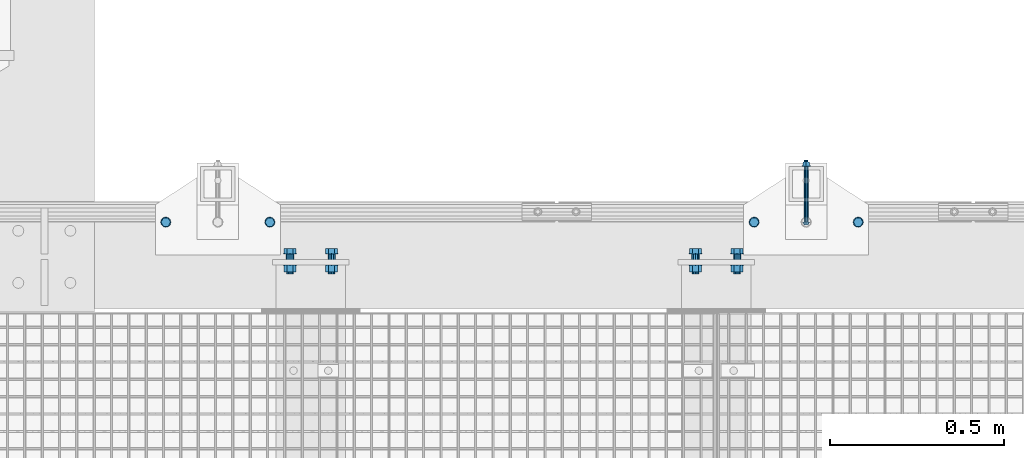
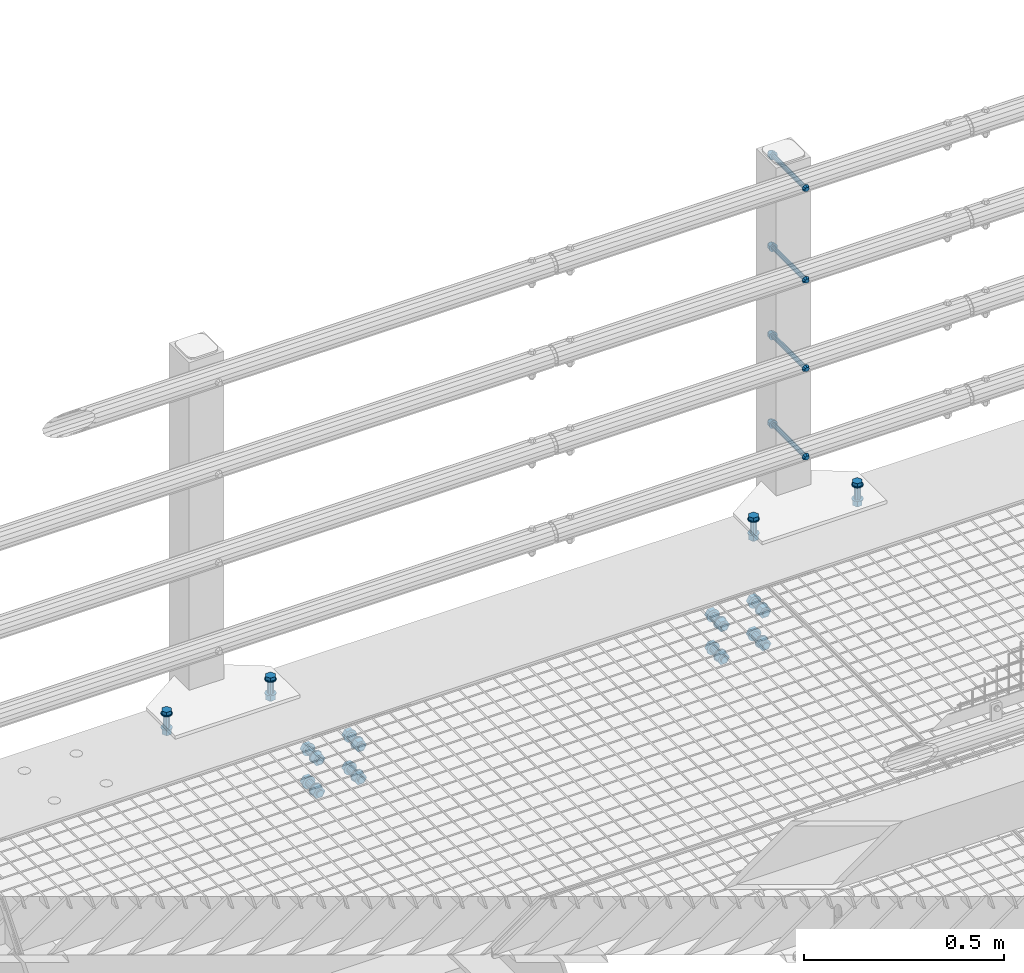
# One storey, part 48 of 1530: 8 mechanical fasteners.
"""IFC2X3 building model written with IfcOpenShell, lengths in millimetres."""

from ifc_helpers import new_model, si_unit, frame, origin_with_axes, place, context, subcontext, project, spatial, faceted_brep, source, transform, mapped, material, type_object, element, save


model = new_model("IFC2X3")

# Units and contexts
model_context = context("Model", 3, precision=1e-05, world=origin_with_axes())
body_context = subcontext(model_context, "Body", "Model", "MODEL_VIEW")
ifc_project = project(units=[si_unit("LENGTHUNIT", "METRE", prefix="MILLI"), si_unit("AREAUNIT", "SQUARE_METRE"), si_unit("VOLUMEUNIT", "CUBIC_METRE"), si_unit("MASSUNIT", "GRAM", prefix="KILO"), si_unit("TIMEUNIT", "SECOND"), si_unit("PLANEANGLEUNIT", "RADIAN"), si_unit("SOLIDANGLEUNIT", "STERADIAN"), si_unit("THERMODYNAMICTEMPERATUREUNIT", "DEGREE_CELSIUS"), si_unit("LUMINOUSINTENSITYUNIT", "LUMEN")], contexts=[model_context])

# Site, building, storey
site_placement = place(None, origin_with_axes())
site = spatial("IfcSite", under=ifc_project, at=site_placement, Name="Brattvåg", CompositionType="ELEMENT")
building_placement = place(site_placement, origin_with_axes())
building = spatial("IfcBuilding", under=site, at=building_placement, Name="Undefined", CompositionType="ELEMENT")
storey_placement = place(building_placement, origin_with_axes())
storey = spatial("IfcBuildingStorey", under=building, at=storey_placement, Name="Undefined", CompositionType="ELEMENT", Elevation=0.0)

# Mechanical fasteners
ifc_material = material(Name="8")
mechanical_fastener_type = type_object("IfcMechanicalFastenerType", Name="Bolt assembly")
shared_shape_1 = source(origin_with_axes(), body_context, "Body", "Brep", [
    faceted_brep([(6.49435320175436, -7.49984019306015, 0.0), (4.59220118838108, -7.49984019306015, 4.59220118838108), (3.97664443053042e-16, -7.49984019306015, 6.49435320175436), (-4.59220118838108, -7.49984019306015, 4.59220118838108), (-6.49435320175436, -7.49984019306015, 7.95328886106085e-16), (-4.59220118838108, -7.49984019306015, -4.59220118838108), (-1.19299332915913e-15, -7.49984019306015, -6.49435320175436), (4.59220118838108, -7.49984019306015, -4.59220118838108), (7.34846922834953, 0.000159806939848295, -7.34846922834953), (-1.90903542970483e-15, 0.000159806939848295, -10.3923048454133), (-7.34846922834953, 0.000159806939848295, -7.34846922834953), (-10.3923048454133, 0.000159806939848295, 1.27269028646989e-15), (-7.34846922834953, 0.000159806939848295, 7.34846922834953), (6.36345143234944e-16, 0.000159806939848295, 10.3923048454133), (7.34846922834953, 0.000159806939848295, 7.34846922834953), (10.3923048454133, 0.000159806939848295, 0.0), (6.0, 0.000159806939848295, 0.0), (5.19615242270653, 0.000159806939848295, 3.00000000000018), (2.99999999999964, 0.000159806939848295, 5.19615242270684), (-6.21801588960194e-13, 0.000159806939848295, 6.0), (-3.00000000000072, 0.000159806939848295, 5.19615242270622), (-5.19615242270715, 0.000159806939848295, 2.9999999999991), (-6.0, 0.000159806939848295, -1.24360317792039e-12), (-5.19615242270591, 0.000159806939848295, -3.00000000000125), (-2.99999999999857, 0.000159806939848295, -5.19615242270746), (1.85874342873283e-12, 0.000159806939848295, -6.0), (3.00000000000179, 0.000159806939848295, -5.1961524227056), (5.19615242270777, 0.000159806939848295, -2.99999999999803), (5.19615242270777, 180.00015980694, -2.99999999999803), (3.00000000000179, 180.00015980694, -5.1961524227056), (1.85874342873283e-12, 180.00015980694, -6.0), (-2.99999999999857, 180.00015980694, -5.19615242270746), (-5.19615242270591, 180.00015980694, -3.00000000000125), (-6.0, 180.00015980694, -1.24360317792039e-12), (-5.19615242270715, 180.00015980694, 2.9999999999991), (-3.00000000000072, 180.00015980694, 5.19615242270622), (-6.21801588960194e-13, 180.00015980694, 6.0), (2.99999999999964, 180.00015980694, 5.19615242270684), (5.19615242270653, 180.00015980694, 3.00000000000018), (6.0, 180.00015980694, 0.0), (12.0, 160.299998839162, 0.0), (10.3923048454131, 160.299998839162, 6.00000000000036), (5.99999999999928, 160.299998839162, 10.3923048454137), (-1.24360317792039e-12, 160.299998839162, 12.0), (-6.00000000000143, 160.299998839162, 10.3923048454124), (-10.3923048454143, 160.299998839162, 5.99999999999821), (-12.0, 160.299998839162, -2.48720635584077e-12), (-10.3923048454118, 160.299998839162, -6.00000000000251), (-5.99999999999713, 160.299998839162, -10.3923048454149), (3.71748685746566e-12, 160.299998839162, -12.0), (6.00000000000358, 160.299998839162, -10.3923048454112), (10.3923048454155, 160.299998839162, -5.99999999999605), (10.3923048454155, 162.799998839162, -5.99999999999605), (6.00000000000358, 162.799998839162, -10.3923048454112), (3.71748685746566e-12, 162.799998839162, -12.0), (-5.99999999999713, 162.799998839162, -10.3923048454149), (-10.3923048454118, 162.799998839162, -6.00000000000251), (-12.0, 162.799998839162, -2.48720635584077e-12), (-10.3923048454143, 162.799998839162, 5.99999999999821), (-6.00000000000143, 162.799998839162, 10.3923048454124), (-1.24360317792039e-12, 162.799998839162, 12.0), (5.99999999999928, 162.799998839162, 10.3923048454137), (10.3923048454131, 162.799998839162, 6.00000000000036), (12.0, 162.799998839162, 0.0), (10.9696551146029, 162.799998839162, 0.0), (5.48482755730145, 162.799998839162, 9.5), (-5.48482755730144, 162.799998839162, 9.5), (-10.9696551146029, 162.799998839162, 1.34339530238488e-15), (-5.48482755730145, 162.799998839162, -9.5), (5.48482755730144, 162.799998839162, -9.5), (5.48482755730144, 173.599999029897, -9.5), (-5.48482755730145, 173.599999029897, -9.5), (-10.9696551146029, 173.599999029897, 1.34339530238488e-15), (-5.48482755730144, 173.599999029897, 9.5), (5.48482755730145, 173.599999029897, 9.5), (10.9696551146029, 173.599999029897, 0.0)], [[[0, 1, 2, 3, 4, 5, 6, 7]], [[8, 9, 10, 11, 12, 13, 14, 15]], [[0, 15, 14, 1]], [[1, 14, 13, 2]], [[2, 13, 12, 3]], [[3, 12, 11, 4]], [[4, 11, 10, 5]], [[5, 10, 9, 6]], [[6, 9, 8, 7]], [[7, 8, 15, 0]], [[16, 17, 18, 19, 20, 21, 22, 23, 24, 25, 26, 27]], [[28, 29, 30, 31, 32, 33, 34, 35, 36, 37, 38, 39]], [[16, 39, 38, 17]], [[17, 38, 37, 18]], [[18, 37, 36, 19]], [[19, 36, 35, 20]], [[20, 35, 34, 21]], [[21, 34, 33, 22]], [[22, 33, 32, 23]], [[23, 32, 31, 24]], [[24, 31, 30, 25]], [[25, 30, 29, 26]], [[26, 29, 28, 27]], [[27, 28, 39, 16]], [[40, 41, 42, 43, 44, 45, 46, 47, 48, 49, 50, 51]], [[52, 53, 54, 55, 56, 57, 58, 59, 60, 61, 62, 63]], [[40, 63, 62, 41]], [[41, 62, 61, 42]], [[42, 61, 60, 43]], [[43, 60, 59, 44]], [[44, 59, 58, 45]], [[45, 58, 57, 46]], [[46, 57, 56, 47]], [[47, 56, 55, 48]], [[48, 55, 54, 49]], [[49, 54, 53, 50]], [[50, 53, 52, 51]], [[51, 52, 63, 40]], [[64, 65, 66, 67, 68, 69]], [[70, 71, 72, 73, 74, 75]], [[64, 75, 74, 65]], [[65, 74, 73, 66]], [[66, 73, 72, 67]], [[67, 72, 71, 68]], [[68, 71, 70, 69]], [[69, 70, 75, 64]]]),
    faceted_brep([(6.5, 0.100159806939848, 0.0), (5.62916512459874, 0.100159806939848, 3.25000000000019), (3.24999999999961, 0.100159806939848, 5.62916512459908), (-6.7361838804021e-13, 0.100159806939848, 6.5), (-3.25000000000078, 0.100159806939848, 5.6291651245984), (-5.62916512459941, 0.100159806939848, 3.24999999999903), (-6.5, 0.100159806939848, -1.34723677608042e-12), (-5.62916512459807, 0.100159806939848, -3.25000000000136), (-3.24999999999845, 0.100159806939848, -5.62916512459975), (2.01363871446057e-12, 0.100159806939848, -6.5), (3.25000000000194, 0.100159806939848, -5.62916512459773), (5.62916512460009, 0.100159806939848, -3.24999999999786), (5.62916512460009, 60.4001552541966, -3.24999999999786), (3.25000000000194, 60.4001552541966, -5.62916512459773), (2.01363871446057e-12, 60.4001552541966, -6.5), (-3.24999999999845, 60.4001552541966, -5.62916512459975), (-5.62916512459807, 60.4001552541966, -3.25000000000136), (-6.5, 60.4001552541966, -1.34723677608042e-12), (-5.62916512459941, 60.4001552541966, 3.24999999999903), (-3.25000000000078, 60.4001552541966, 5.6291651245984), (-6.7361838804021e-13, 60.4001552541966, 6.5), (3.24999999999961, 60.4001552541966, 5.62916512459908), (5.62916512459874, 60.4001552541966, 3.25000000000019), (6.5, 60.4001552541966, 0.0), (6.5, 60.1999988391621, 0.0), (5.62916512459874, 60.1999988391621, 3.25000000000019), (3.24999999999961, 60.1999988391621, 5.62916512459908), (-6.7361838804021e-13, 60.1999988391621, 6.5), (-3.25000000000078, 60.1999988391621, 5.6291651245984), (-5.62916512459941, 60.1999988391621, 3.24999999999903), (-6.5, 60.1999988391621, -1.34723677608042e-12), (-5.62916512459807, 60.1999988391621, -3.25000000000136), (-3.24999999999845, 60.1999988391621, -5.62916512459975), (2.01363871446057e-12, 60.1999988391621, -6.5), (3.25000000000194, 60.1999988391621, -5.62916512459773), (5.62916512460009, 60.1999988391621, -3.24999999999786), (5.62916512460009, 160.299998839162, -3.24999999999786), (3.25000000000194, 160.299998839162, -5.62916512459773), (2.01363871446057e-12, 160.299998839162, -6.5), (-3.24999999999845, 160.299998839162, -5.62916512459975), (-5.62916512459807, 160.299998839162, -3.25000000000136), (-6.5, 160.299998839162, -1.34723677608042e-12), (-5.62916512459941, 160.299998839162, 3.24999999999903), (-3.25000000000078, 160.299998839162, 5.6291651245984), (-6.7361838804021e-13, 160.299998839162, 6.5), (3.24999999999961, 160.299998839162, 5.62916512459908), (5.62916512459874, 160.299998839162, 3.25000000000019), (6.5, 160.299998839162, 0.0)], [[[0, 1, 2, 3, 4, 5, 6, 7, 8, 9, 10, 11]], [[12, 13, 14, 15, 16, 17, 18, 19, 20, 21, 22, 23]], [[0, 23, 22, 1]], [[1, 22, 21, 2]], [[2, 21, 20, 3]], [[3, 20, 19, 4]], [[4, 19, 18, 5]], [[5, 18, 17, 6]], [[6, 17, 16, 7]], [[7, 16, 15, 8]], [[8, 15, 14, 9]], [[9, 14, 13, 10]], [[10, 13, 12, 11]], [[11, 12, 23, 0]], [[24, 25, 26, 27, 28, 29, 30, 31, 32, 33, 34, 35]], [[36, 37, 38, 39, 40, 41, 42, 43, 44, 45, 46, 47]], [[24, 47, 46, 25]], [[25, 46, 45, 26]], [[26, 45, 44, 27]], [[27, 44, 43, 28]], [[28, 43, 42, 29]], [[29, 42, 41, 30]], [[30, 41, 40, 31]], [[31, 40, 39, 32]], [[32, 39, 38, 33]], [[33, 38, 37, 34]], [[34, 37, 36, 35]], [[35, 36, 47, 24]]]),
])
for number, where, z_axis, x_axis, name in (
    (1, (14844.9999999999, 9099.69972268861, 149.550000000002), (1.0, 0.0, 0.0), (0.0, 0.0, -1.0), "Bolt assembly"),
    (2, (14844.9999999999, 9099.69972268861, 419.550000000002), (1.0, 0.0, 0.0), (0.0, 0.0, -1.0), "Bolt assembly"),
    (3, (14844.9999999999, 9099.69972268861, 689.550000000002), (1.0, 0.0, 0.0), (0.0, 0.0, -1.0), "Bolt assembly"),
    (4, (14844.9999999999, 9099.69972268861, 969.550000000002), (1.0, 0.0, 0.0), (0.0, 0.0, -1.0), "Bolt assembly"),
):
    element("IfcMechanicalFastener", number, at=place(storey_placement, frame(where, z_axis=z_axis, x_axis=x_axis)), inside=storey, type_object=mechanical_fastener_type, material=ifc_material, Name=name, NominalDiameter=12.0, NominalLength=180.0, context=body_context, shape_type="MappedRepresentation", body=[
        mapped(shared_shape_1, transform((0.0, 0.0, 0.0))),
    ])
shared_shape_2 = source(origin_with_axes(), body_context, "Body", "Brep", [
    faceted_brep([(13.856406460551, -13.0, 0.0), (6.92820323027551, -13.0, 12.0), (-6.92820323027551, -13.0, 12.0), (-13.856406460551, -13.0, 1.69692038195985e-15), (-6.92820323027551, -13.0, -12.0), (6.9282032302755, -13.0, -12.0), (6.9282032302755, -3.0, -12.0), (-6.92820323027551, -3.0, -12.0), (-13.856406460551, -3.0, 1.69692038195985e-15), (-6.92820323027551, -3.0, 12.0), (6.92820323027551, -3.0, 12.0), (13.856406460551, -3.0, 0.0), (8.0, -3.0, 0.0), (6.92820323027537, -3.0, 4.00000000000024), (3.99999999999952, -3.0, 6.92820323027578), (-8.29068785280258e-13, -3.0, 8.0), (-4.00000000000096, -3.0, 6.92820323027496), (-6.9282032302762, -3.0, 3.99999999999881), (-8.0, -3.0, -1.65813757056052e-12), (-6.92820323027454, -3.0, -4.00000000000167), (-3.99999999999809, -3.0, -6.92820323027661), (2.47832457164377e-12, -3.0, -8.0), (4.00000000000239, -3.0, -6.92820323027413), (6.92820323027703, -3.0, -3.99999999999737), (6.92820323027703, 62.0000000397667, -3.99999999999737), (4.00000000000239, 62.0000000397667, -6.92820323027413), (2.47832457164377e-12, 62.0000000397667, -8.0), (-3.99999999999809, 62.0000000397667, -6.92820323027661), (-6.92820323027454, 62.0000000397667, -4.00000000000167), (-8.0, 62.0000000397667, -1.65813757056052e-12), (-6.9282032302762, 62.0000000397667, 3.99999999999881), (-4.00000000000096, 62.0000000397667, 6.92820323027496), (-8.29068785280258e-13, 62.0000000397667, 8.0), (3.99999999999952, 62.0000000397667, 6.92820323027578), (6.92820323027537, 62.0000000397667, 4.00000000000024), (8.0, 62.0000000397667, 0.0), (15.0, -3.0, 0.0), (12.9903810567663, -3.0, 7.50000000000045), (7.4999999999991, -3.0, 12.9903810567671), (-1.55450397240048e-12, -3.0, 15.0), (-7.50000000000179, -3.0, 12.9903810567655), (-12.9903810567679, -3.0, 7.49999999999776), (-15.0, -3.0, -3.10900794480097e-12), (-12.9903810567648, -3.0, -7.50000000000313), (-7.49999999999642, -3.0, -12.9903810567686), (4.64685857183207e-12, -3.0, -15.0), (7.50000000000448, -3.0, -12.990381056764), (12.9903810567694, -3.0, -7.49999999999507), (12.9903810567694, 0.0, -7.49999999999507), (7.50000000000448, 0.0, -12.990381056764), (0.0, 0.0, -15.0), (-7.49999999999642, 0.0, -12.9903810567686), (-12.9903810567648, 0.0, -7.50000000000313), (-15.0, 0.0, -3.10900794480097e-12), (-12.9903810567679, 0.0, 7.49999999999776), (-7.50000000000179, 0.0, 12.9903810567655), (0.0, 0.0, 15.0), (7.4999999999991, 0.0, 12.9903810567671), (12.9903810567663, 0.0, 7.50000000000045), (15.0, 0.0, 0.0), (15.0, 39.9997390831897, 0.0), (12.9903810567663, 39.9997390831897, 7.50000000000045), (7.4999999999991, 39.9997390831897, 12.9903810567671), (-1.55450397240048e-12, 39.9997390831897, 15.0), (-7.50000000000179, 39.9997390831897, 12.9903810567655), (-12.9903810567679, 39.9997390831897, 7.49999999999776), (-15.0, 39.9997390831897, -3.10900794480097e-12), (-12.9903810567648, 39.9997390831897, -7.50000000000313), (-7.49999999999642, 39.9997390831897, -12.9903810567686), (4.64685857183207e-12, 39.9997390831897, -15.0), (7.50000000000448, 39.9997390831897, -12.990381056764), (12.9903810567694, 39.9997390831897, -7.49999999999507), (12.9903810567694, 42.9997390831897, -7.49999999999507), (7.50000000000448, 42.9997390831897, -12.990381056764), (4.64685857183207e-12, 42.9997390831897, -15.0), (-7.49999999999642, 42.9997390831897, -12.9903810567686), (-12.9903810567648, 42.9997390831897, -7.50000000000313), (-15.0, 42.9997390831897, -3.10900794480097e-12), (-12.9903810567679, 42.9997390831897, 7.49999999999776), (-7.50000000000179, 42.9997390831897, 12.9903810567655), (-1.55450397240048e-12, 42.9997390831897, 15.0), (7.4999999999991, 42.9997390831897, 12.9903810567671), (12.9903810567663, 42.9997390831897, 7.50000000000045), (15.0, 42.9997390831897, 0.0), (13.856406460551, 42.9997390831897, 0.0), (6.92820323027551, 42.9997390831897, 12.0), (-6.92820323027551, 42.9997390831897, 12.0), (-13.856406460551, 42.9997390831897, 1.69692038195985e-15), (-6.92820323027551, 42.9997390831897, -12.0), (6.9282032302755, 42.9997390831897, -12.0), (6.9282032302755, 57.7997392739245, -12.0), (-6.92820323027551, 57.7997392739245, -12.0), (-13.856406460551, 57.7997392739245, 1.69692038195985e-15), (-6.92820323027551, 57.7997392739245, 12.0), (6.92820323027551, 57.7997392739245, 12.0), (13.856406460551, 57.7997392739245, 0.0)], [[[0, 1, 2, 3, 4, 5]], [[6, 7, 8, 9, 10, 11]], [[0, 11, 10, 1]], [[1, 10, 9, 2]], [[2, 9, 8, 3]], [[3, 8, 7, 4]], [[4, 7, 6, 5]], [[5, 6, 11, 0]], [[12, 13, 14, 15, 16, 17, 18, 19, 20, 21, 22, 23]], [[24, 25, 26, 27, 28, 29, 30, 31, 32, 33, 34, 35]], [[12, 35, 34, 13]], [[13, 34, 33, 14]], [[14, 33, 32, 15]], [[15, 32, 31, 16]], [[16, 31, 30, 17]], [[17, 30, 29, 18]], [[18, 29, 28, 19]], [[19, 28, 27, 20]], [[20, 27, 26, 21]], [[21, 26, 25, 22]], [[22, 25, 24, 23]], [[23, 24, 35, 12]], [[36, 37, 38, 39, 40, 41, 42, 43, 44, 45, 46, 47]], [[48, 49, 50, 51, 52, 53, 54, 55, 56, 57, 58, 59]], [[36, 59, 58, 37]], [[37, 58, 57, 38]], [[38, 57, 56, 39]], [[39, 56, 55, 40]], [[40, 55, 54, 41]], [[41, 54, 53, 42]], [[42, 53, 52, 43]], [[43, 52, 51, 44]], [[44, 51, 50, 45]], [[45, 50, 49, 46]], [[46, 49, 48, 47]], [[47, 48, 59, 36]], [[60, 61, 62, 63, 64, 65, 66, 67, 68, 69, 70, 71]], [[72, 73, 74, 75, 76, 77, 78, 79, 80, 81, 82, 83]], [[60, 83, 82, 61]], [[61, 82, 81, 62]], [[62, 81, 80, 63]], [[63, 80, 79, 64]], [[64, 79, 78, 65]], [[65, 78, 77, 66]], [[66, 77, 76, 67]], [[67, 76, 75, 68]], [[68, 75, 74, 69]], [[69, 74, 73, 70]], [[70, 73, 72, 71]], [[71, 72, 83, 60]], [[84, 85, 86, 87, 88, 89]], [[90, 91, 92, 93, 94, 95]], [[84, 95, 94, 85]], [[85, 94, 93, 86]], [[86, 93, 92, 87]], [[87, 92, 91, 88]], [[88, 91, 90, 89]], [[89, 90, 95, 84]]]),
    faceted_brep([(9.0, 0.1, 0.0), (7.79422863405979, 0.1, 4.50000000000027), (4.49999999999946, 0.1, 7.79422863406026), (-9.3270238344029e-13, 0.1, 9.0), (-4.50000000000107, 0.1, 7.79422863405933), (-7.79422863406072, 0.1, 4.49999999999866), (-9.0, 0.1, -1.86540476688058e-12), (-7.79422863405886, 0.1, -4.50000000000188), (-4.49999999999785, 0.1, -7.79422863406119), (2.78811514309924e-12, 0.1, -9.0), (4.50000000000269, 0.1, -7.7942286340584), (7.79422863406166, 0.1, -4.49999999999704), (7.79422863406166, 10.1, -4.49999999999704), (4.50000000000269, 10.1, -7.7942286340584), (2.78811514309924e-12, 10.1, -9.0), (-4.49999999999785, 10.1, -7.79422863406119), (-7.79422863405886, 10.1, -4.50000000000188), (-9.0, 10.1, -1.86540476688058e-12), (-7.79422863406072, 10.1, 4.49999999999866), (-4.50000000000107, 10.1, 7.79422863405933), (-9.3270238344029e-13, 10.1, 9.0), (4.49999999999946, 10.1, 7.79422863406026), (7.79422863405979, 10.1, 4.50000000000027), (9.0, 10.1, 0.0), (9.0, 9.8997390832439, 0.0), (7.79422863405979, 9.8997390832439, 4.50000000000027), (4.49999999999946, 9.8997390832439, 7.79422863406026), (-9.3270238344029e-13, 9.8997390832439, 9.0), (-4.50000000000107, 9.8997390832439, 7.79422863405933), (-7.79422863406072, 9.8997390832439, 4.49999999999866), (-9.0, 9.8997390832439, -1.86540476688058e-12), (-7.79422863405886, 9.8997390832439, -4.50000000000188), (-4.49999999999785, 9.8997390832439, -7.79422863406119), (2.78811514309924e-12, 9.8997390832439, -9.0), (4.50000000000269, 9.8997390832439, -7.7942286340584), (7.79422863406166, 9.8997390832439, -4.49999999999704), (7.79422863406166, 39.9997390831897, -4.49999999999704), (4.50000000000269, 39.9997390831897, -7.7942286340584), (2.78811514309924e-12, 39.9997390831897, -9.0), (-4.49999999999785, 39.9997390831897, -7.79422863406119), (-7.79422863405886, 39.9997390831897, -4.50000000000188), (-9.0, 39.9997390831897, -1.86540476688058e-12), (-7.79422863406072, 39.9997390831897, 4.49999999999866), (-4.50000000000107, 39.9997390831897, 7.79422863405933), (-9.3270238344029e-13, 39.9997390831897, 9.0), (4.49999999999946, 39.9997390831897, 7.79422863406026), (7.79422863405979, 39.9997390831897, 4.50000000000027), (9.0, 39.9997390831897, 0.0)], [[[0, 1, 2, 3, 4, 5, 6, 7, 8, 9, 10, 11]], [[12, 13, 14, 15, 16, 17, 18, 19, 20, 21, 22, 23]], [[0, 23, 22, 1]], [[1, 22, 21, 2]], [[2, 21, 20, 3]], [[3, 20, 19, 4]], [[4, 19, 18, 5]], [[5, 18, 17, 6]], [[6, 17, 16, 7]], [[7, 16, 15, 8]], [[8, 15, 14, 9]], [[9, 14, 13, 10]], [[10, 13, 12, 11]], [[11, 12, 23, 0]], [[24, 25, 26, 27, 28, 29, 30, 31, 32, 33, 34, 35]], [[36, 37, 38, 39, 40, 41, 42, 43, 44, 45, 46, 47]], [[24, 47, 46, 25]], [[25, 46, 45, 26]], [[26, 45, 44, 27]], [[27, 44, 43, 28]], [[28, 43, 42, 29]], [[29, 42, 41, 30]], [[30, 41, 40, 31]], [[31, 40, 39, 32]], [[32, 39, 38, 33]], [[33, 38, 37, 34]], [[34, 37, 36, 35]], [[35, 36, 47, 24]]]),
])
for number, where, z_axis, x_axis, name in (
    (5, (13000.0008086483, 9099.99960715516, 9.99973908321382), (0.0, 1.0, 0.0), (1.0, 0.0, 0.0), "Bolt assembly"),
    (6, (14695.0008086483, 9099.99960715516, 9.99973908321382), (0.0, 1.0, 0.0), (1.0, 0.0, 0.0), "Bolt assembly"),
):
    element("IfcMechanicalFastener", number, at=place(storey_placement, frame(where, z_axis=z_axis, x_axis=x_axis)), inside=storey, type_object=mechanical_fastener_type, material=ifc_material, Name=name, NominalDiameter=16.0, NominalLength=65.0, context=body_context, shape_type="MappedRepresentation", body=[
        mapped(shared_shape_2, transform((0.0, 0.0, 0.0))),
        mapped(shared_shape_2, transform((300.0, 0.0, 0.0))),
    ])
shared_shape_3 = source(origin_with_axes(), body_context, "Body", "Brep", [
    faceted_brep([(17.3205080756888, -31.4985046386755, 0.0), (8.66025403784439, -31.4985046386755, 15.0), (-8.66025403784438, -31.4985046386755, 15.0), (-17.3205080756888, -31.4985046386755, 2.12115047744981e-15), (-8.66025403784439, -31.4985046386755, -15.0), (8.66025403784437, -31.4985046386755, -15.0), (8.66025403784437, -18.9985046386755, -15.0), (-8.66025403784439, -18.9985046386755, -15.0), (-17.3205080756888, -18.9985046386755, 2.12115047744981e-15), (-8.66025403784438, -18.9985046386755, 15.0), (8.66025403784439, -18.9985046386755, 15.0), (17.3205080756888, -18.9985046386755, 0.0), (10.0, -18.9985046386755, 0.0), (8.66025403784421, -18.9985046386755, 5.0000000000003), (4.9999999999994, -18.9985046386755, 8.66025403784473), (-1.03633598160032e-12, -18.9985046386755, 10.0), (-5.00000000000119, -18.9985046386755, 8.6602540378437), (-8.66025403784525, -18.9985046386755, 4.99999999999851), (-10.0, -18.9985046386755, -2.07267196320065e-12), (-8.66025403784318, -18.9985046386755, -5.00000000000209), (-4.99999999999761, -18.9985046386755, -8.66025403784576), (3.09790571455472e-12, -18.9985046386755, -10.0), (5.00000000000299, -18.9985046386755, -8.66025403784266), (8.66025403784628, -18.9985046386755, -4.99999999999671), (8.66025403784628, 41.0014953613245, -4.99999999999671), (5.00000000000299, 41.0014953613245, -8.66025403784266), (3.09790571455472e-12, 41.0014953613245, -10.0), (-4.99999999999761, 41.0014953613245, -8.66025403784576), (-8.66025403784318, 41.0014953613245, -5.00000000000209), (-10.0, 41.0014953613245, -2.07267196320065e-12), (-8.66025403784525, 41.0014953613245, 4.99999999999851), (-5.00000000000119, 41.0014953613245, 8.6602540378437), (-1.03633598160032e-12, 41.0014953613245, 10.0), (4.9999999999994, 41.0014953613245, 8.66025403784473), (8.66025403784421, 41.0014953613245, 5.0000000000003), (10.0, 41.0014953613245, 0.0), (18.5, -18.9985046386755, 0.0), (16.0214699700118, -18.9985046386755, 9.25000000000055), (9.2499999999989, -18.9985046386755, 16.0214699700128), (-1.9172215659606e-12, -18.9985046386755, 18.5), (-9.25000000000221, -18.9985046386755, 16.0214699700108), (-16.0214699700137, -18.9985046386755, 9.24999999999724), (-18.5, -18.9985046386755, -3.83444313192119e-12), (-16.0214699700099, -18.9985046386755, -9.25000000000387), (-9.24999999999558, -18.9985046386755, -16.0214699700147), (5.73112557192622e-12, -18.9985046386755, -18.5), (9.25000000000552, -18.9985046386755, -16.0214699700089), (16.0214699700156, -18.9985046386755, -9.24999999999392), (16.0214699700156, -15.9985046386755, -9.24999999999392), (9.25000000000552, -15.9985046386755, -16.0214699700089), (5.73112557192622e-12, -15.9985046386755, -18.5), (-9.24999999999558, -15.9985046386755, -16.0214699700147), (-16.0214699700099, -15.9985046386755, -9.25000000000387), (-18.5, -15.9985046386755, -3.83444313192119e-12), (-16.0214699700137, -15.9985046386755, 9.24999999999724), (-9.25000000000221, -15.9985046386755, 16.0214699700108), (-1.9172215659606e-12, -15.9985046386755, 18.5), (9.2499999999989, -15.9985046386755, 16.0214699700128), (16.0214699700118, -15.9985046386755, 9.25000000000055), (18.5, -15.9985046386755, 0.0), (18.5, 15.0000000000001, 0.0), (16.0214699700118, 15.0000000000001, 9.25000000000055), (9.2499999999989, 15.0000000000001, 16.0214699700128), (-1.9172215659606e-12, 15.0000000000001, 18.5), (-9.25000000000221, 15.0000000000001, 16.0214699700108), (-16.0214699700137, 15.0000000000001, 9.24999999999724), (-18.5, 15.0000000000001, -3.83444313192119e-12), (-16.0214699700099, 15.0000000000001, -9.25000000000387), (-9.24999999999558, 15.0000000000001, -16.0214699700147), (5.73112557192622e-12, 15.0000000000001, -18.5), (9.25000000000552, 15.0000000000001, -16.0214699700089), (16.0214699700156, 15.0000000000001, -9.24999999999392), (16.0214699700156, 18.0000000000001, -9.24999999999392), (9.25000000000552, 18.0000000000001, -16.0214699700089), (5.73112557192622e-12, 18.0000000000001, -18.5), (-9.24999999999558, 18.0000000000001, -16.0214699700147), (-16.0214699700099, 18.0000000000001, -9.25000000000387), (-18.5, 18.0000000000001, -3.83444313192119e-12), (-16.0214699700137, 18.0000000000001, 9.24999999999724), (-9.25000000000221, 18.0000000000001, 16.0214699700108), (-1.9172215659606e-12, 18.0000000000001, 18.5), (9.2499999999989, 18.0000000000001, 16.0214699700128), (16.0214699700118, 18.0000000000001, 9.25000000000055), (18.5, 18.0000000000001, 0.0), (17.3205080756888, 18.0000000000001, 0.0), (8.66025403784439, 18.0000000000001, 15.0), (-8.66025403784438, 18.0000000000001, 15.0), (-17.3205080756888, 18.0000000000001, 2.12115047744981e-15), (-8.66025403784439, 18.0000000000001, -15.0), (8.66025403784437, 18.0000000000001, -15.0), (8.66025403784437, 36.0000000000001, -15.0), (-8.66025403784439, 36.0000000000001, -15.0), (-17.3205080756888, 36.0000000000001, 2.12115047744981e-15), (-8.66025403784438, 36.0000000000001, 15.0), (8.66025403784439, 36.0000000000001, 15.0), (17.3205080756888, 36.0000000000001, 0.0)], [[[0, 1, 2, 3, 4, 5]], [[6, 7, 8, 9, 10, 11]], [[0, 11, 10, 1]], [[1, 10, 9, 2]], [[2, 9, 8, 3]], [[3, 8, 7, 4]], [[4, 7, 6, 5]], [[5, 6, 11, 0]], [[12, 13, 14, 15, 16, 17, 18, 19, 20, 21, 22, 23]], [[24, 25, 26, 27, 28, 29, 30, 31, 32, 33, 34, 35]], [[12, 35, 34, 13]], [[13, 34, 33, 14]], [[14, 33, 32, 15]], [[15, 32, 31, 16]], [[16, 31, 30, 17]], [[17, 30, 29, 18]], [[18, 29, 28, 19]], [[19, 28, 27, 20]], [[20, 27, 26, 21]], [[21, 26, 25, 22]], [[22, 25, 24, 23]], [[23, 24, 35, 12]], [[36, 37, 38, 39, 40, 41, 42, 43, 44, 45, 46, 47]], [[48, 49, 50, 51, 52, 53, 54, 55, 56, 57, 58, 59]], [[36, 59, 58, 37]], [[37, 58, 57, 38]], [[38, 57, 56, 39]], [[39, 56, 55, 40]], [[40, 55, 54, 41]], [[41, 54, 53, 42]], [[42, 53, 52, 43]], [[43, 52, 51, 44]], [[44, 51, 50, 45]], [[45, 50, 49, 46]], [[46, 49, 48, 47]], [[47, 48, 59, 36]], [[60, 61, 62, 63, 64, 65, 66, 67, 68, 69, 70, 71]], [[72, 73, 74, 75, 76, 77, 78, 79, 80, 81, 82, 83]], [[60, 83, 82, 61]], [[61, 82, 81, 62]], [[62, 81, 80, 63]], [[63, 80, 79, 64]], [[64, 79, 78, 65]], [[65, 78, 77, 66]], [[66, 77, 76, 67]], [[67, 76, 75, 68]], [[68, 75, 74, 69]], [[69, 74, 73, 70]], [[70, 73, 72, 71]], [[71, 72, 83, 60]], [[84, 85, 86, 87, 88, 89]], [[90, 91, 92, 93, 94, 95]], [[84, 95, 94, 85]], [[85, 94, 93, 86]], [[86, 93, 92, 87]], [[87, 92, 91, 88]], [[88, 91, 90, 89]], [[89, 90, 95, 84]]]),
    faceted_brep([(11.0, -15.8985046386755, 0.0), (9.52627944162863, -15.8985046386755, 5.50000000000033), (5.49999999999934, -15.8985046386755, 9.5262794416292), (-1.13996957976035e-12, -15.8985046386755, 11.0), (-5.50000000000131, -15.8985046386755, 9.52627944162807), (-9.52627944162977, -15.8985046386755, 5.49999999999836), (-11.0, -15.8985046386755, -2.27993915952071e-12), (-9.5262794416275, -15.8985046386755, -5.5000000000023), (-5.49999999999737, -15.8985046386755, -9.52627944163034), (3.40769628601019e-12, -15.8985046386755, -11.0), (5.50000000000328, -15.8985046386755, -9.52627944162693), (9.52627944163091, -15.8985046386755, -5.49999999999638), (9.52627944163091, 0.101495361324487, -5.49999999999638), (5.50000000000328, 0.101495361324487, -9.52627944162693), (3.40769628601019e-12, 0.101495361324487, -11.0), (-5.49999999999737, 0.101495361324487, -9.52627944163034), (-9.5262794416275, 0.101495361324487, -5.5000000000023), (-11.0, 0.101495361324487, -2.27993915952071e-12), (-9.52627944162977, 0.101495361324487, 5.49999999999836), (-5.50000000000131, 0.101495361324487, 9.52627944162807), (-1.13996957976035e-12, 0.101495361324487, 11.0), (5.49999999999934, 0.101495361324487, 9.5262794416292), (9.52627944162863, 0.101495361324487, 5.50000000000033), (11.0, 0.101495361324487, 0.0), (11.0, -0.1, 0.0), (9.52627944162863, -0.1, 5.50000000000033), (5.49999999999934, -0.1, 9.5262794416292), (-1.13996957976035e-12, -0.1, 11.0), (-5.50000000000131, -0.1, 9.52627944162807), (-9.52627944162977, -0.1, 5.49999999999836), (-11.0, -0.1, -2.27993915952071e-12), (-9.5262794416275, -0.1, -5.5000000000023), (-5.49999999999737, -0.1, -9.52627944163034), (3.40769628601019e-12, -0.1, -11.0), (5.50000000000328, -0.1, -9.52627944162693), (9.52627944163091, -0.1, -5.49999999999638), (9.52627944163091, 15.0000000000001, -5.49999999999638), (5.50000000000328, 15.0000000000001, -9.52627944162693), (3.40769628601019e-12, 15.0000000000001, -11.0), (-5.49999999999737, 15.0000000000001, -9.52627944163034), (-9.5262794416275, 15.0000000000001, -5.5000000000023), (-11.0, 15.0000000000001, -2.27993915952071e-12), (-9.52627944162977, 15.0000000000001, 5.49999999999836), (-5.50000000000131, 15.0000000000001, 9.52627944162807), (-1.13996957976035e-12, 15.0000000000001, 11.0), (5.49999999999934, 15.0000000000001, 9.5262794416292), (9.52627944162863, 15.0000000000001, 5.50000000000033), (11.0, 15.0000000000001, 0.0)], [[[0, 1, 2, 3, 4, 5, 6, 7, 8, 9, 10, 11]], [[12, 13, 14, 15, 16, 17, 18, 19, 20, 21, 22, 23]], [[0, 23, 22, 1]], [[1, 22, 21, 2]], [[2, 21, 20, 3]], [[3, 20, 19, 4]], [[4, 19, 18, 5]], [[5, 18, 17, 6]], [[6, 17, 16, 7]], [[7, 16, 15, 8]], [[8, 15, 14, 9]], [[9, 14, 13, 10]], [[10, 13, 12, 11]], [[11, 12, 23, 0]], [[24, 25, 26, 27, 28, 29, 30, 31, 32, 33, 34, 35]], [[36, 37, 38, 39, 40, 41, 42, 43, 44, 45, 46, 47]], [[24, 47, 46, 25]], [[25, 46, 45, 26]], [[26, 45, 44, 27]], [[27, 44, 43, 28]], [[28, 43, 42, 29]], [[29, 42, 41, 30]], [[30, 41, 40, 31]], [[31, 40, 39, 32]], [[32, 39, 38, 33]], [[33, 38, 37, 34]], [[34, 37, 36, 35]], [[35, 36, 47, 24]]]),
])
for number, where, z_axis, x_axis, name in (
    (7, (13478.0019683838, 8992.00149536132, -219.998836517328), (0.0, 0.0, 1.0), (-1.0, 1.99999855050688e-09, 0.0), "Bolt assembly"),
    (8, (14646.0019683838, 8992.00149536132, -219.998836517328), (0.0, 0.0, 1.0), (-1.0, 1.99999855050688e-09, 0.0), "Bolt assembly"),
):
    element("IfcMechanicalFastener", number, at=place(storey_placement, frame(where, z_axis=z_axis, x_axis=x_axis)), inside=storey, type_object=mechanical_fastener_type, material=ifc_material, Name=name, NominalDiameter=20.0, NominalLength=60.0, context=body_context, shape_type="MappedRepresentation", body=[
        mapped(shared_shape_3, transform((0.0, 0.0, -50.0))),
        mapped(shared_shape_3, transform((120.0, 0.0, -50.0))),
        mapped(shared_shape_3, transform((0.0, 0.0, 50.0))),
        mapped(shared_shape_3, transform((120.0, 0.0, 50.0))),
    ])

save(model, "model.ifc")
